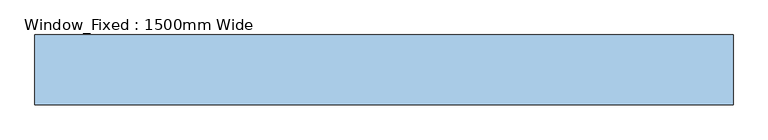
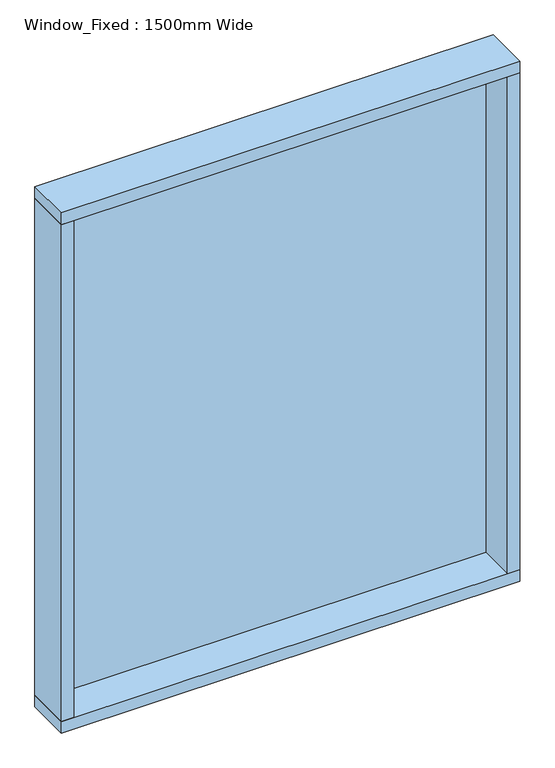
"""IFC4 building model written with IfcOpenShell, lengths in millimetres: window geometry, Window_Fixed : 1500mm Wide."""

from ifc_helpers import new_model, si_unit, frame, origin, place, context, project, spatial, polyline, outline, extrude, source, transform, mapped, element, save


def window_fixed_1500mm_wide_722047fe(model_context):
    return source(origin(), model_context, "Body", "SweptSolid", [
        extrude(outline(polyline([(710.0, 85.0), (710.0, 73.0), (-710.0, 73.0), (-710.0, 85.0), (710.0, 85.0)])), frame((0.0, 0.0, 290.0), z_axis=(0.0, 0.0, 1.0), x_axis=(1.0, 0.0, 0.0)), (0.0, 0.0, 1.0), 1720.0),
        extrude(outline(polyline([(750.0, 100.0), (750.0, -50.0), (-750.0, -50.0), (-750.0, 100.0), (750.0, 100.0)])), frame((0.0, 0.0, 2010.0), z_axis=(0.0, 0.0, 1.0), x_axis=(1.0, 0.0, 0.0)), (0.0, 0.0, 1.0), 40.0),
        extrude(outline(polyline([(750.0, 100.0), (750.0, -50.0), (-750.0, -50.0), (-750.0, 100.0), (750.0, 100.0)])), frame((0.0, 0.0, 250.0), z_axis=(0.0, 0.0, 1.0), x_axis=(1.0, 0.0, 0.0)), (0.0, 0.0, 1.0), 40.0),
        extrude(outline(polyline([(-710.0, -50.0), (-750.0, -50.0), (-750.0, 100.0), (-710.0, 100.0), (-710.0, -50.0)])), frame((0.0, 0.0, 290.0), z_axis=(0.0, 0.0, 1.0), x_axis=(1.0, 0.0, 0.0)), (0.0, 0.0, 1.0), 1720.0),
        extrude(outline(polyline([(710.0, -50.0), (710.0, 100.0), (750.0, 100.0), (750.0, -50.0), (710.0, -50.0)])), frame((0.0, 0.0, 290.0), z_axis=(0.0, 0.0, 1.0), x_axis=(1.0, 0.0, 0.0)), (0.0, 0.0, 1.0), 1720.0),
    ])


if __name__ == "__main__":
    model = new_model("IFC4")
    model_context = context("Model", 3, world=origin())
    ifc_project = project(units=[si_unit("LENGTHUNIT", "METRE", prefix="MILLI")], contexts=[model_context])
    site = spatial("IfcSite", under=ifc_project)
    building = spatial("IfcBuilding", under=site)
    placement = place(None, origin())
    window_fixed_1500mm_wide_shape = window_fixed_1500mm_wide_722047fe(model_context)
    element("IfcWindow", 1, ObjectType="Window_Fixed : 1500mm Wide", at=placement, inside=building, context=model_context, shape_type="MappedRepresentation", body=[
        mapped(window_fixed_1500mm_wide_shape, transform((0.0, 0.0, 0.0), x_axis=(1.0, 0.0, 0.0), y_axis=(0.0, 1.0, 0.0), z_axis=(0.0, 0.0, 1.0))),
    ])
    save(model, "model.ifc")
